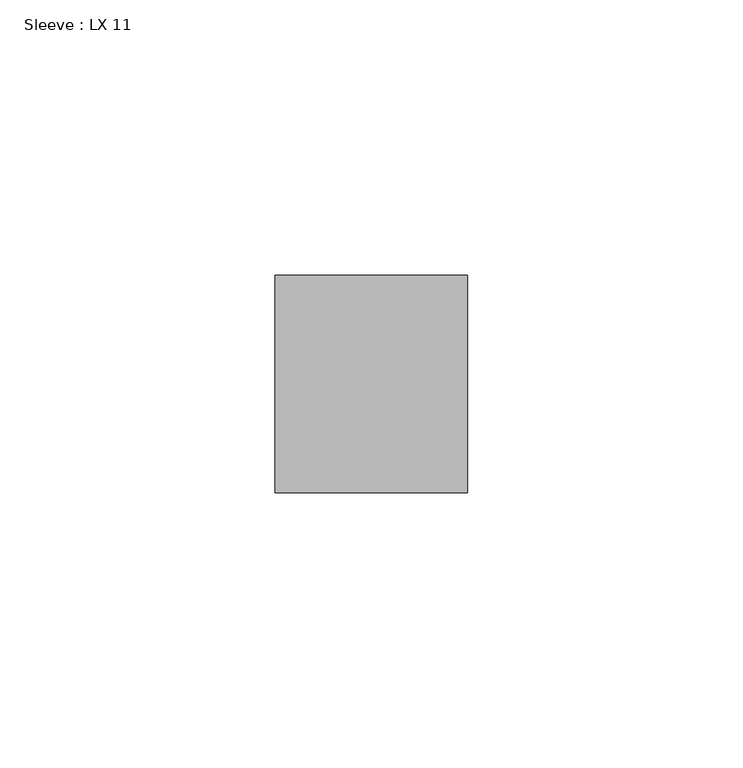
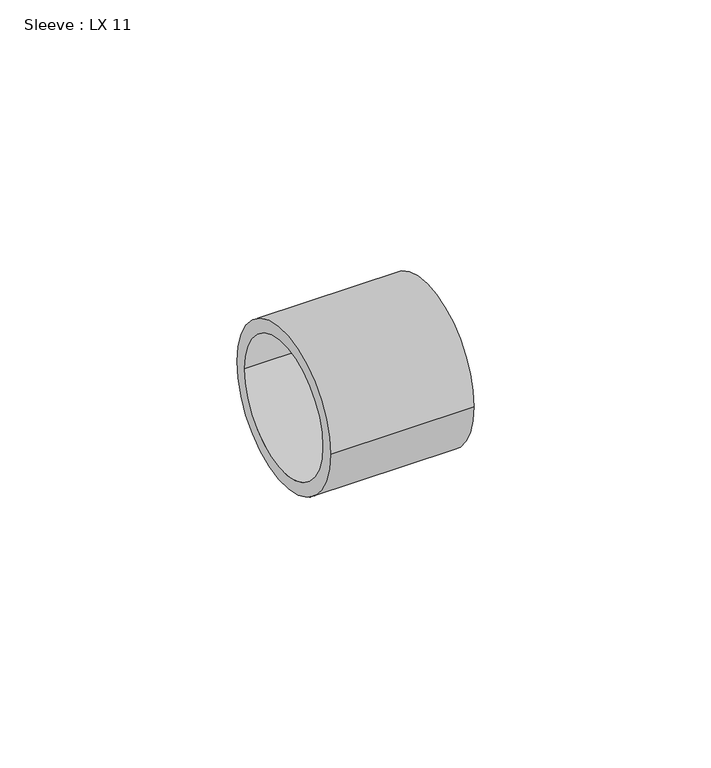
"""IFC4 building model written with IfcOpenShell, lengths in millimetres: pipe fitting geometry, Sleeve : LX 11."""

from ifc_helpers import new_model, si_unit, point, frame, origin, origin_2d, place, context, project, spatial, circle_curve, trimmed, segment, composite_curve, outline, extrude, source, transform, mapped, element, save


def sleeve_lx_11_4a8bb2b2(model_context):
    return source(origin(), model_context, "Body", "SweptSolid", [
        extrude(outline(composite_curve([segment(trimmed(circle_curve(origin_2d(), 19.75), [point((19.75, 0.0))], [point((-19.75, 0.0))], False, "CARTESIAN"), True, "CONTINUOUS"), segment(trimmed(circle_curve(origin_2d(), 19.75), [point((-19.75, 0.0))], [point((19.75, 0.0))], False, "CARTESIAN"), True, "CONTINUOUS")], self_intersect=False), holes=[composite_curve([segment(trimmed(circle_curve(origin_2d(), 16.5), [point((16.5, 0.0))], [point((-16.5, 0.0))], True, "CARTESIAN"), True, "CONTINUOUS"), segment(trimmed(circle_curve(origin_2d(), 16.5), [point((-16.5, 0.0))], [point((16.5, 0.0))], True, "CARTESIAN"), True, "CONTINUOUS")], self_intersect=False)]), frame((0.0, 0.0, 0.0), z_axis=(1.0, 0.0, 0.0), x_axis=(0.0, 1.0, 0.0)), (0.0, 0.0, 1.0), 35.0),
    ])


if __name__ == "__main__":
    model = new_model("IFC4")
    model_context = context("Model", 3, world=origin())
    ifc_project = project(units=[si_unit("LENGTHUNIT", "METRE", prefix="MILLI")], contexts=[model_context])
    site = spatial("IfcSite", under=ifc_project)
    building = spatial("IfcBuilding", under=site)
    placement = place(None, origin())
    sleeve_lx_11_shape = sleeve_lx_11_4a8bb2b2(model_context)
    element("IfcPipeFitting", 1, ObjectType="Sleeve : LX 11", at=placement, inside=building, context=model_context, shape_type="MappedRepresentation", body=[
        mapped(sleeve_lx_11_shape, transform((0.0, 0.0, 0.0), x_axis=(1.0, 0.0, 0.0), y_axis=(0.0, 1.0, 0.0), z_axis=(0.0, 0.0, 1.0))),
    ])
    save(model, "model.ifc")
